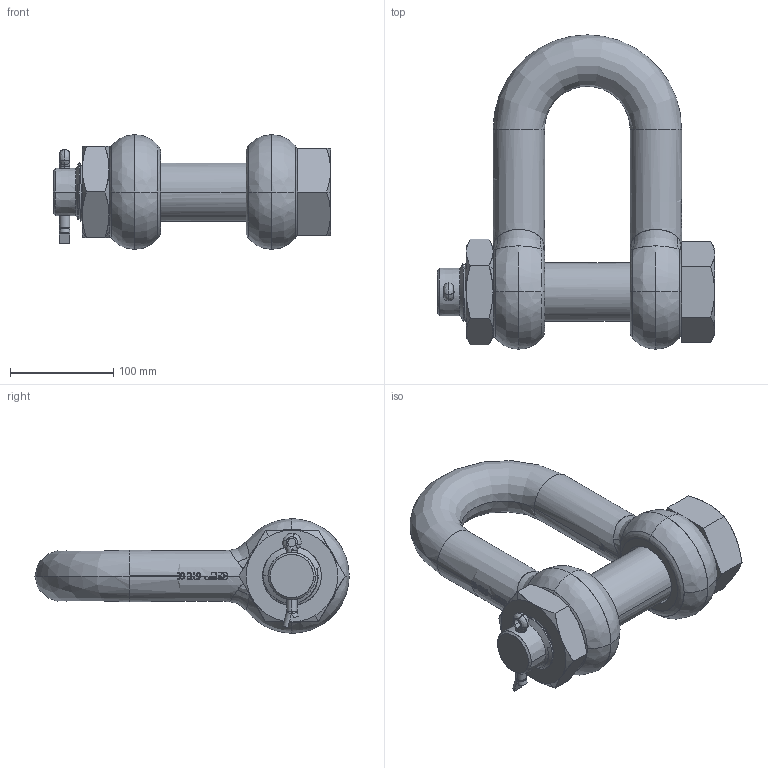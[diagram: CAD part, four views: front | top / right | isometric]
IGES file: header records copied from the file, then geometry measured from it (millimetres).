
Start section: START RECORD GO HERE.
Global section: file name: 35.igs; native system: Solidworks 2009      A Version 5 Release 17 ; preprocessor: Solidworks                 ; author: v.b.; organization: P4; date: 20090807.084021; units: millimetre
Bounding box: 269 x 305 x 111 mm (x, y, z)
Surface area: 227347.3 mm2 (no closed solid volume)
Topology: 0 solids, 0 shells, 716 faces, 4740 edges, 4732 vertices
Faces by surface type: bspline 323, plane 243, revolution 150
